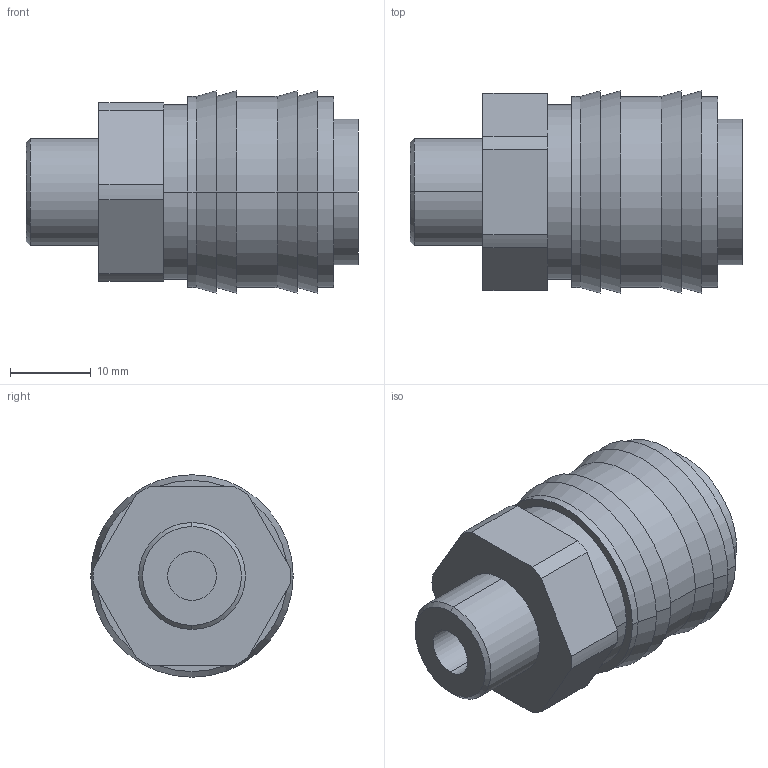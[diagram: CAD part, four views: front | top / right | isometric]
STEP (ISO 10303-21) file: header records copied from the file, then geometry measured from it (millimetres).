
FILE_DESCRIPTION (( 'STEP AP203' ), '1' );
FILE_NAME ('cad_step_220175.STEP', '2016-12-12T13:29:34', ( '' ), ( '' ), 'SwSTEP 2.0', 'SolidWorks 2016', '' );
FILE_SCHEMA (( 'CONFIG_CONTROL_DESIGN' ));
Length unit declared in the file: millimetre
Products named in the file (1): cad_step_220175
Bounding box: 41 x 25 x 25 mm (x, y, z)
Volume: 12682.9 mm3; surface area: 4919.1 mm2
Topology: 2 solids, 2 shells, 54 faces, 117 edges, 76 vertices
Faces by surface type: cylinder 25, plane 19, cone 10
Entity records: 1576 total; most frequent: DIRECTION 291, CARTESIAN_POINT 248, ORIENTED_EDGE 234, AXIS2_PLACEMENT_3D 119, EDGE_CURVE 117, VERTEX_POINT 76, EDGE_LOOP 65, CIRCLE 64
